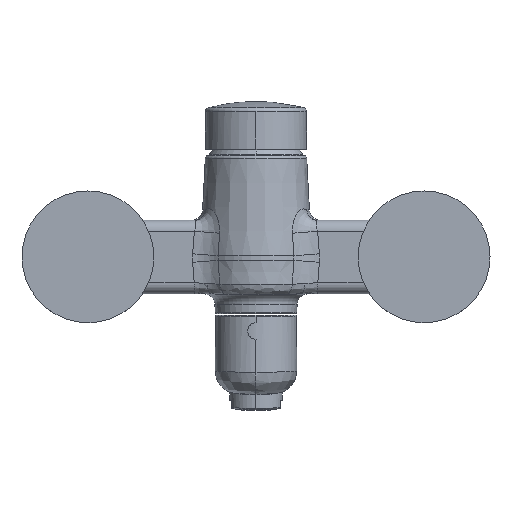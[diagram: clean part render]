
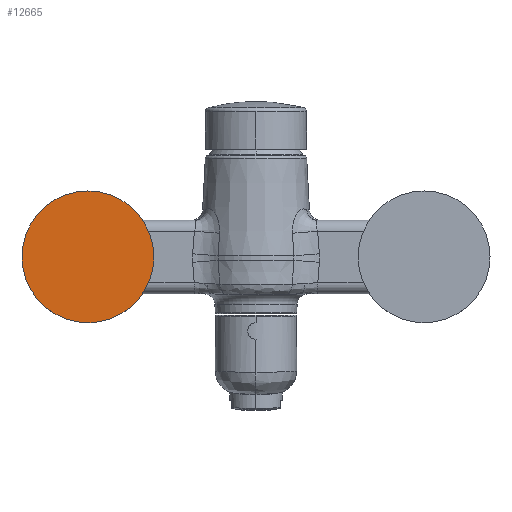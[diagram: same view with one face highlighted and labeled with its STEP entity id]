
A CAD part, top view. The second image highlights one B-rep face of the part: STEP entity #12665.
In plain terms, the highlighted planar face has unit normal (0, 0, 1).
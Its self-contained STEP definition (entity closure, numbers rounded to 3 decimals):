
#12490=CARTESIAN_POINT('',(-76.5,0.45,75.3));
#12491=DIRECTION('',(0.,0.,-1.));
#12492=DIRECTION('',(1.,0.,0.));
#12493=AXIS2_PLACEMENT_3D('',#12490,#12491,#12492);
#12499=CARTESIAN_POINT('',(-76.5,0.45,75.3));
#12500=DIRECTION('',(0.,0.,1.));
#12501=DIRECTION('',(1.,0.,0.));
#12502=AXIS2_PLACEMENT_3D('',#12499,#12500,#12501);
#12553=CARTESIAN_POINT('',(-46.5,0.45,75.3));
#12554=VERTEX_POINT('',#12553);
#12555=CARTESIAN_POINT('',(-106.5,0.45,75.3));
#12556=VERTEX_POINT('',#12555);
#12656=CARTESIAN_POINT('',(125.,-38.52,75.3));
#12657=DIRECTION('',(0.,0.,-1.));
#12658=DIRECTION('',(0.,1.,0.));
#12659=AXIS2_PLACEMENT_3D('',#12656,#12657,#12658);
#12660=PLANE('',#12659);
#12661=ORIENTED_EDGE('',*,*,#12650,.F.);
#12662=ORIENTED_EDGE('',*,*,#12636,.T.);
#12663=EDGE_LOOP('',(#12661,#12662));
#12664=FACE_OUTER_BOUND('',#12663,.F.);
#12665=ADVANCED_FACE('',(#12664),#12660,.F.);
#12494=CIRCLE('',#12493,30.);
#12503=CIRCLE('',#12502,30.);
#12636=EDGE_CURVE('',#12554,#12556,#12494,.T.);
#12650=EDGE_CURVE('',#12554,#12556,#12503,.T.);
